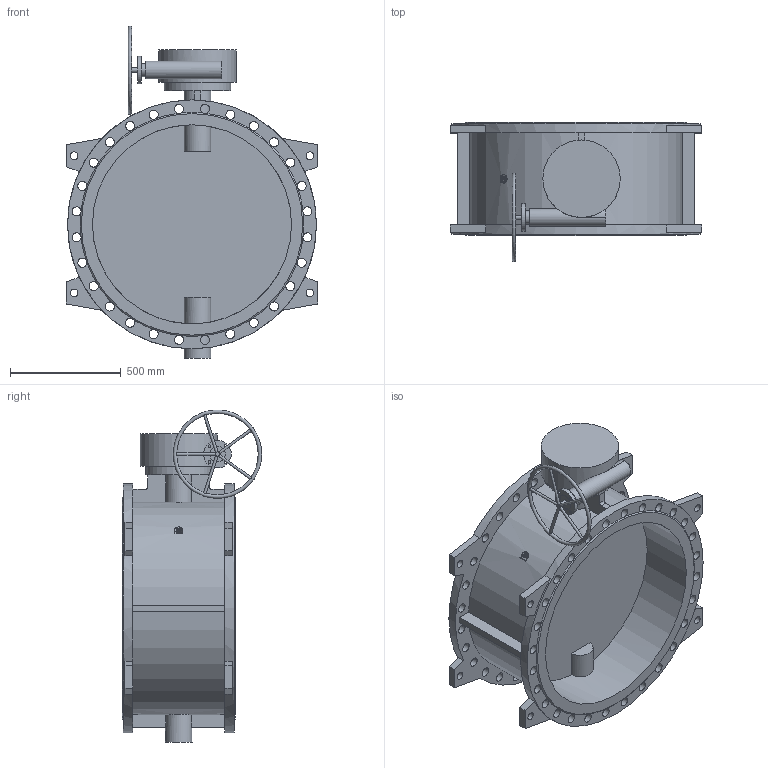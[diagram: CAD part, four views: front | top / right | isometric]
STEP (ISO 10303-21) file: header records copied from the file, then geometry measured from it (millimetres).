
FILE_DESCRIPTION(('STEP AP203'), '1');
FILE_NAME('Çàòâîð 023F.Z DN900 PN16_ìàõ', '', ('UNSPECIFIED'), ('UNSPECIFIED'), 'ASCON STEP Converter 1.6', 'ASCON Math Kernel', '');
FILE_SCHEMA(('CONFIG_CONTROL_DESIGN'));
Length unit declared in the file: millimetre
Bounding box: 1136 x 629.99 x 1500.46 mm (x, y, z)
Volume: 135098080.7 mm3; surface area: 6602924.6 mm2
Topology: 1 solids, 1 shells, 225 faces, 760 edges, 503 vertices
Faces by surface type: cylinder 120, plane 102, cone 2, torus 1
Full cylindrical faces by diameter (mm): 12 x9, 14 x8, 18 x8, 20 x2, 35 x8, 41 x56, 60 x1, 70 x1, 80 x1, 120 x1, 125 x1, 300 x1, 350 x1, 900 x2, 1125 x2
Entity records: 15847 total; most frequent: CARTESIAN_POINT 7463, DIRECTION 1359, ORIENTED_EDGE 1302, EDGE_CURVE 651, AXIS2_PLACEMENT_3D 585, VERTEX_POINT 501, EDGE_LOOP 440, CIRCLE 360
